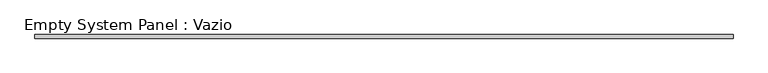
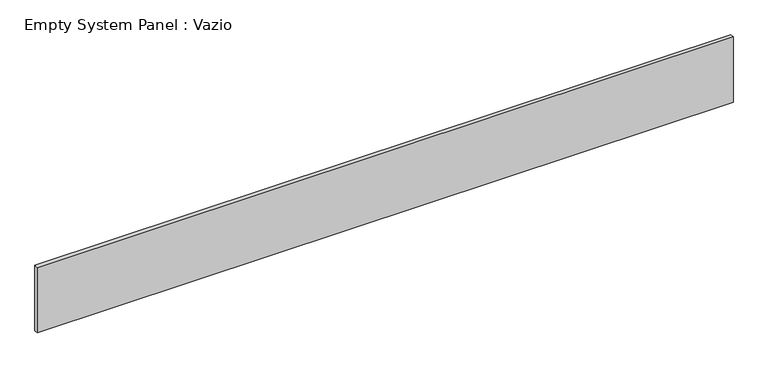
"""IFC4 building model written with IfcOpenShell, lengths in millimetres: plate geometry, Empty System Panel : Vazio."""

from ifc_helpers import new_model, si_unit, origin, origin_with_axes, place, context, project, spatial, polyline, outline, extrude, source, transform, mapped, element, save


def empty_system_panel_vazio_4f9dff83(model_context):
    return source(origin(), model_context, "Body", "SweptSolid", [
        extrude(outline(polyline([(9600.0, 50.0), (-9600.0, 50.0), (-9600.0, 150.0), (9600.0, 150.0), (9600.0, 50.0)])), origin_with_axes(), (0.0, 0.0, 1.0), 1904.0985432),
    ])


if __name__ == "__main__":
    model = new_model("IFC4")
    model_context = context("Model", 3, world=origin())
    ifc_project = project(units=[si_unit("LENGTHUNIT", "METRE", prefix="MILLI")], contexts=[model_context])
    site = spatial("IfcSite", under=ifc_project)
    building = spatial("IfcBuilding", under=site)
    placement = place(None, origin())
    empty_system_panel_vazio_shape = empty_system_panel_vazio_4f9dff83(model_context)
    element("IfcPlate", 1, ObjectType="Empty System Panel : Vazio", at=placement, inside=building, context=model_context, shape_type="MappedRepresentation", body=[
        mapped(empty_system_panel_vazio_shape, transform((0.0, 0.0, 0.0), x_axis=(1.0, 0.0, 0.0), y_axis=(0.0, 1.0, 0.0), z_axis=(0.0, 0.0, 1.0))),
    ])
    save(model, "model.ifc")
